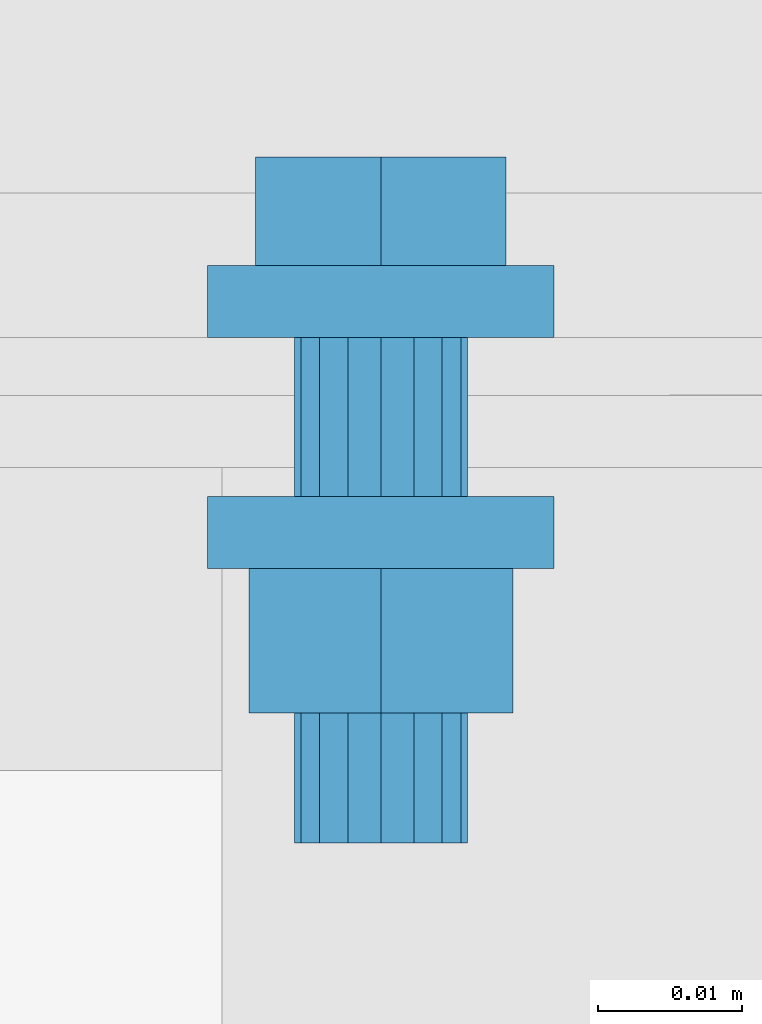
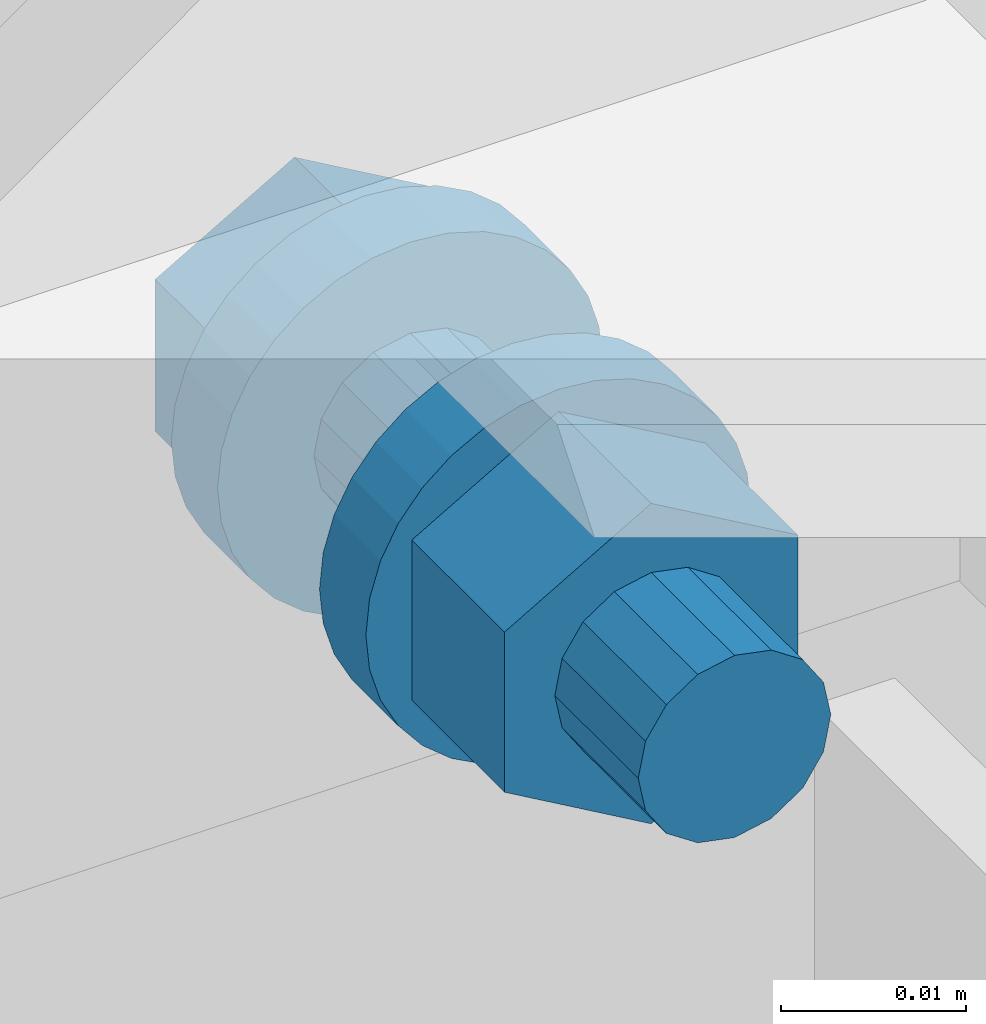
# One storey, part 79 of 116: 1 mechanical fastener.
"""IFC2X3 building model written with IfcOpenShell, lengths in millimetres."""

from ifc_helpers import new_model, entity, si_unit, converted_unit, origin_with_axes, place, context, project, spatial, faceted_brep, element, save


model = new_model("IFC2X3")

# Units and contexts
model_context = context("Model", 3, precision=1e-09, world=origin_with_axes())
ifc_project = project(units=[si_unit("LENGTHUNIT", "METRE", prefix="MILLI"), si_unit("AREAUNIT", "SQUARE_METRE"), si_unit("VOLUMEUNIT", "CUBIC_METRE"), converted_unit("PLANEANGLEUNIT", "DEGREE", entity("IfcPlaneAngleMeasure", 0.01745329), si_unit("PLANEANGLEUNIT", "RADIAN"), dimensions=[0, 0, 0, 0, 0, 0, 0])], contexts=[model_context])

# Site, building, storey
site_placement = place(None, origin_with_axes())
site = spatial("IfcSite", under=ifc_project, at=site_placement, Name="Site", CompositionType="ELEMENT")
building_placement = place(site_placement, origin_with_axes())
building = spatial("IfcBuilding", under=site, at=building_placement, Name="Struktur 1", CompositionType="ELEMENT")
storey_placement = place(building_placement, origin_with_axes())
storey = spatial("IfcBuildingStorey", under=building, at=storey_placement, Name="Default Storey", CompositionType="ELEMENT", Elevation=0.0)

# Mechanical fastener
mechanical_fastener_placement = place(None, origin_with_axes())
element("IfcMechanicalFastener", 1, at=mechanical_fastener_placement, inside=storey, ObjectType="-", NominalDiameter=12.0, NominalLength=40.0, context=model_context, shape_type="Brep", body=[
    faceted_brep([(60005.049134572, 10430.358883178, -998.0), (60005.049134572, 10432.858883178, -998.0), (60005.279711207, 10432.858883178, -1000.341083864), (60005.279711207, 10430.358883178, -1000.341083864), (60005.962580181, 10432.858883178, -1002.592201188), (60005.962580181, 10430.358883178, -1002.592201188), (60007.071499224, 10432.858883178, -1004.666842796), (60007.071499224, 10430.358883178, -1004.666842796), (60008.563853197, 10432.858883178, -1006.485281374), (60008.563853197, 10430.358883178, -1006.485281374), (60010.382291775, 10432.858883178, -1007.977635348), (60010.382291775, 10430.358883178, -1007.977635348), (60012.456933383, 10432.858883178, -1009.08655439), (60012.456933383, 10430.358883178, -1009.08655439), (60014.708050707, 10432.858883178, -1009.769423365), (60014.708050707, 10430.358883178, -1009.769423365), (60017.049134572, 10432.858883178, -1010.0), (60017.049134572, 10430.358883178, -1010.0), (60019.390218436, 10432.858883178, -1009.769423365), (60019.390218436, 10430.358883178, -1009.769423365), (60021.64133576, 10432.858883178, -1009.08655439), (60021.64133576, 10430.358883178, -1009.08655439), (60023.715977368, 10432.858883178, -1007.977635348), (60023.715977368, 10430.358883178, -1007.977635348), (60025.534415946, 10432.858883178, -1006.485281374), (60025.534415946, 10430.358883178, -1006.485281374), (60027.026769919, 10432.858883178, -1004.666842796), (60027.026769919, 10430.358883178, -1004.666842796), (60028.135688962, 10432.858883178, -1002.592201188), (60028.135688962, 10430.358883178, -1002.592201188), (60028.818557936, 10432.858883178, -1000.341083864), (60028.818557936, 10430.358883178, -1000.341083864), (60029.049134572, 10432.858883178, -998.0), (60029.049134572, 10430.358883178, -998.0), (60028.818557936, 10432.858883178, -995.658916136), (60028.818557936, 10430.358883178, -995.658916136), (60028.135688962, 10432.858883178, -993.407798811), (60028.135688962, 10430.358883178, -993.407798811), (60027.026769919, 10432.858883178, -991.333157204), (60027.026769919, 10430.358883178, -991.333157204), (60025.534415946, 10432.858883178, -989.514718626), (60025.534415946, 10430.358883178, -989.514718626), (60023.715977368, 10432.858883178, -988.022364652), (60023.715977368, 10430.358883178, -988.022364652), (60021.64133576, 10432.858883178, -986.91344561), (60021.64133576, 10430.358883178, -986.91344561), (60019.390218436, 10432.858883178, -986.230576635), (60019.390218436, 10430.358883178, -986.230576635), (60017.049134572, 10432.858883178, -986.0), (60017.049134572, 10430.358883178, -986.0), (60014.708050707, 10432.858883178, -986.230576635), (60014.708050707, 10430.358883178, -986.230576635), (60012.456933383, 10432.858883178, -986.91344561), (60012.456933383, 10430.358883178, -986.91344561), (60010.382291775, 10432.858883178, -988.022364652), (60010.382291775, 10430.358883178, -988.022364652), (60008.563853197, 10432.858883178, -989.514718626), (60008.563853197, 10430.358883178, -989.514718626), (60007.071499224, 10432.858883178, -991.333157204), (60007.071499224, 10430.358883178, -991.333157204), (60005.962580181, 10432.858883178, -993.407798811), (60005.962580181, 10430.358883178, -993.407798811), (60005.279711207, 10432.858883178, -995.658916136), (60005.279711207, 10430.358883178, -995.658916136)], [[[0, 1, 2, 3]], [[3, 2, 4, 5]], [[5, 4, 6, 7]], [[7, 6, 8, 9]], [[9, 8, 10, 11]], [[11, 10, 12, 13]], [[13, 12, 14, 15]], [[15, 14, 16, 17]], [[17, 16, 18, 19]], [[19, 18, 20, 21]], [[21, 20, 22, 23]], [[23, 22, 24, 25]], [[25, 24, 26, 27]], [[27, 26, 28, 29]], [[29, 28, 30, 31]], [[31, 30, 32, 33]], [[33, 32, 34, 35]], [[35, 34, 36, 37]], [[37, 36, 38, 39]], [[39, 38, 40, 41]], [[41, 40, 42, 43]], [[43, 42, 44, 45]], [[45, 44, 46, 47]], [[47, 46, 48, 49]], [[49, 48, 50, 51]], [[51, 50, 52, 53]], [[53, 52, 54, 55]], [[55, 54, 56, 57]], [[57, 56, 58, 59]], [[59, 58, 60, 61]], [[61, 60, 62, 63]], [[63, 62, 1, 0]], [[2, 1, 62, 60, 58, 56, 54, 52, 50, 48, 46, 44, 42, 40, 38, 36, 34, 32, 30, 28, 26, 24, 22, 20, 18, 16, 14, 12, 10, 8, 6, 4]], [[63, 0, 3, 5, 7, 9, 11, 13, 15, 17, 19, 21, 23, 25, 27, 29, 31, 33, 35, 37, 39, 41, 43, 45, 47, 49, 51, 53, 55, 57, 59, 61]]]),
    faceted_brep([(60005.049134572, 10432.858883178, -998.0), (60005.049134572, 10435.358883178, -998.0), (60005.279711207, 10435.358883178, -1000.341083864), (60005.279711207, 10432.858883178, -1000.341083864), (60005.962580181, 10435.358883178, -1002.592201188), (60005.962580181, 10432.858883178, -1002.592201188), (60007.071499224, 10435.358883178, -1004.666842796), (60007.071499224, 10432.858883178, -1004.666842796), (60008.563853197, 10435.358883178, -1006.485281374), (60008.563853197, 10432.858883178, -1006.485281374), (60010.382291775, 10435.358883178, -1007.977635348), (60010.382291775, 10432.858883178, -1007.977635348), (60012.456933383, 10435.358883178, -1009.08655439), (60012.456933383, 10432.858883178, -1009.08655439), (60014.708050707, 10435.358883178, -1009.769423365), (60014.708050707, 10432.858883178, -1009.769423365), (60017.049134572, 10435.358883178, -1010.0), (60017.049134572, 10432.858883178, -1010.0), (60019.390218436, 10435.358883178, -1009.769423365), (60019.390218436, 10432.858883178, -1009.769423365), (60021.64133576, 10435.358883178, -1009.08655439), (60021.64133576, 10432.858883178, -1009.08655439), (60023.715977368, 10435.358883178, -1007.977635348), (60023.715977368, 10432.858883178, -1007.977635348), (60025.534415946, 10435.358883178, -1006.485281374), (60025.534415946, 10432.858883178, -1006.485281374), (60027.026769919, 10435.358883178, -1004.666842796), (60027.026769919, 10432.858883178, -1004.666842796), (60028.135688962, 10435.358883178, -1002.592201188), (60028.135688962, 10432.858883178, -1002.592201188), (60028.818557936, 10435.358883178, -1000.341083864), (60028.818557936, 10432.858883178, -1000.341083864), (60029.049134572, 10435.358883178, -998.0), (60029.049134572, 10432.858883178, -998.0), (60028.818557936, 10435.358883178, -995.658916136), (60028.818557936, 10432.858883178, -995.658916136), (60028.135688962, 10435.358883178, -993.407798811), (60028.135688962, 10432.858883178, -993.407798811), (60027.026769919, 10435.358883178, -991.333157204), (60027.026769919, 10432.858883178, -991.333157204), (60025.534415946, 10435.358883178, -989.514718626), (60025.534415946, 10432.858883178, -989.514718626), (60023.715977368, 10435.358883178, -988.022364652), (60023.715977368, 10432.858883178, -988.022364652), (60021.64133576, 10435.358883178, -986.91344561), (60021.64133576, 10432.858883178, -986.91344561), (60019.390218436, 10435.358883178, -986.230576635), (60019.390218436, 10432.858883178, -986.230576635), (60017.049134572, 10435.358883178, -986.0), (60017.049134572, 10432.858883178, -986.0), (60014.708050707, 10435.358883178, -986.230576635), (60014.708050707, 10432.858883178, -986.230576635), (60012.456933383, 10435.358883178, -986.91344561), (60012.456933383, 10432.858883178, -986.91344561), (60010.382291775, 10435.358883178, -988.022364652), (60010.382291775, 10432.858883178, -988.022364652), (60008.563853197, 10435.358883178, -989.514718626), (60008.563853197, 10432.858883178, -989.514718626), (60007.071499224, 10435.358883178, -991.333157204), (60007.071499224, 10432.858883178, -991.333157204), (60005.962580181, 10435.358883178, -993.407798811), (60005.962580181, 10432.858883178, -993.407798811), (60005.279711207, 10435.358883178, -995.658916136), (60005.279711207, 10432.858883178, -995.658916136)], [[[0, 1, 2, 3]], [[3, 2, 4, 5]], [[5, 4, 6, 7]], [[7, 6, 8, 9]], [[9, 8, 10, 11]], [[11, 10, 12, 13]], [[13, 12, 14, 15]], [[15, 14, 16, 17]], [[17, 16, 18, 19]], [[19, 18, 20, 21]], [[21, 20, 22, 23]], [[23, 22, 24, 25]], [[25, 24, 26, 27]], [[27, 26, 28, 29]], [[29, 28, 30, 31]], [[31, 30, 32, 33]], [[33, 32, 34, 35]], [[35, 34, 36, 37]], [[37, 36, 38, 39]], [[39, 38, 40, 41]], [[41, 40, 42, 43]], [[43, 42, 44, 45]], [[45, 44, 46, 47]], [[47, 46, 48, 49]], [[49, 48, 50, 51]], [[51, 50, 52, 53]], [[53, 52, 54, 55]], [[55, 54, 56, 57]], [[57, 56, 58, 59]], [[59, 58, 60, 61]], [[61, 60, 62, 63]], [[63, 62, 1, 0]], [[2, 1, 62, 60, 58, 56, 54, 52, 50, 48, 46, 44, 42, 40, 38, 36, 34, 32, 30, 28, 26, 24, 22, 20, 18, 16, 14, 12, 10, 8, 6, 4]], [[63, 0, 3, 5, 7, 9, 11, 13, 15, 17, 19, 21, 23, 25, 27, 29, 31, 33, 35, 37, 39, 41, 43, 45, 47, 49, 51, 53, 55, 57, 59, 61]]]),
    faceted_brep([(60025.722378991, 10442.858883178, -1003.0075), (60025.722378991, 10435.358883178, -1003.0075), (60017.049134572, 10435.358883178, -1008.015), (60017.049134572, 10442.858883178, -1008.015), (60008.375890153, 10435.358883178, -1003.0075), (60008.375890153, 10442.858883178, -1003.0075), (60008.375890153, 10435.358883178, -992.9925), (60008.375890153, 10442.858883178, -992.9925), (60017.049134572, 10435.358883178, -987.985), (60017.049134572, 10442.858883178, -987.985), (60025.722378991, 10435.358883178, -992.9925), (60025.722378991, 10442.858883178, -992.9925)], [[[0, 1, 2, 3]], [[3, 2, 4, 5]], [[5, 4, 6, 7]], [[7, 6, 8, 9]], [[9, 8, 10, 11]], [[11, 10, 1, 0]], [[3, 5, 7, 9, 11, 0]], [[2, 1, 10, 8, 6, 4]]]),
    faceted_brep([(60011.049134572, 10419.358883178, -998.0), (60011.049134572, 10430.358883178, -998.0), (60011.505857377, 10430.358883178, -1000.296100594), (60011.505857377, 10419.358883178, -1000.296100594), (60012.806493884, 10430.358883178, -1002.242640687), (60012.806493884, 10419.358883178, -1002.242640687), (60014.753033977, 10430.358883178, -1003.543277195), (60014.753033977, 10419.358883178, -1003.543277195), (60017.049134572, 10430.358883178, -1004.0), (60017.049134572, 10419.358883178, -1004.0), (60019.345235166, 10430.358883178, -1003.543277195), (60019.345235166, 10419.358883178, -1003.543277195), (60021.291775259, 10430.358883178, -1002.242640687), (60021.291775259, 10419.358883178, -1002.242640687), (60022.592411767, 10430.358883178, -1000.296100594), (60022.592411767, 10419.358883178, -1000.296100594), (60023.049134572, 10430.358883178, -998.0), (60023.049134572, 10419.358883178, -998.0), (60022.592411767, 10430.358883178, -995.703899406), (60022.592411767, 10419.358883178, -995.703899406), (60021.291775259, 10430.358883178, -993.757359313), (60021.291775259, 10419.358883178, -993.757359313), (60019.345235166, 10430.358883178, -992.456722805), (60019.345235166, 10419.358883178, -992.456722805), (60017.049134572, 10430.358883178, -992.0), (60017.049134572, 10419.358883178, -992.0), (60014.753033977, 10430.358883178, -992.456722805), (60014.753033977, 10419.358883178, -992.456722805), (60012.806493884, 10430.358883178, -993.757359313), (60012.806493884, 10419.358883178, -993.757359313), (60011.505857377, 10430.358883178, -995.703899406), (60011.505857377, 10419.358883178, -995.703899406)], [[[0, 1, 2, 3]], [[3, 2, 4, 5]], [[5, 4, 6, 7]], [[7, 6, 8, 9]], [[9, 8, 10, 11]], [[11, 10, 12, 13]], [[13, 12, 14, 15]], [[15, 14, 16, 17]], [[17, 16, 18, 19]], [[19, 18, 20, 21]], [[21, 20, 22, 23]], [[23, 22, 24, 25]], [[25, 24, 26, 27]], [[27, 26, 28, 29]], [[29, 28, 30, 31]], [[31, 30, 1, 0]], [[2, 1, 30, 28, 26, 24, 22, 20, 18, 16, 14, 12, 10, 8, 6, 4]], [[31, 0, 3, 5, 7, 9, 11, 13, 15, 17, 19, 21, 23, 25, 27, 29]]]),
    faceted_brep([(60005.049134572, 10416.858883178, -998.0), (60005.049134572, 10419.358883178, -998.0), (60005.279711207, 10419.358883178, -1000.341083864), (60005.279711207, 10416.858883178, -1000.341083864), (60005.962580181, 10419.358883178, -1002.592201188), (60005.962580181, 10416.858883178, -1002.592201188), (60007.071499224, 10419.358883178, -1004.666842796), (60007.071499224, 10416.858883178, -1004.666842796), (60008.563853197, 10419.358883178, -1006.485281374), (60008.563853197, 10416.858883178, -1006.485281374), (60010.382291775, 10419.358883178, -1007.977635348), (60010.382291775, 10416.858883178, -1007.977635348), (60012.456933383, 10419.358883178, -1009.08655439), (60012.456933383, 10416.858883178, -1009.08655439), (60014.708050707, 10419.358883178, -1009.769423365), (60014.708050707, 10416.858883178, -1009.769423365), (60017.049134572, 10419.358883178, -1010.0), (60017.049134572, 10416.858883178, -1010.0), (60019.390218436, 10419.358883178, -1009.769423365), (60019.390218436, 10416.858883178, -1009.769423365), (60021.64133576, 10419.358883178, -1009.08655439), (60021.64133576, 10416.858883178, -1009.08655439), (60023.715977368, 10419.358883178, -1007.977635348), (60023.715977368, 10416.858883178, -1007.977635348), (60025.534415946, 10419.358883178, -1006.485281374), (60025.534415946, 10416.858883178, -1006.485281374), (60027.026769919, 10419.358883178, -1004.666842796), (60027.026769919, 10416.858883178, -1004.666842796), (60028.135688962, 10419.358883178, -1002.592201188), (60028.135688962, 10416.858883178, -1002.592201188), (60028.818557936, 10419.358883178, -1000.341083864), (60028.818557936, 10416.858883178, -1000.341083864), (60029.049134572, 10419.358883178, -998.0), (60029.049134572, 10416.858883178, -998.0), (60028.818557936, 10419.358883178, -995.658916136), (60028.818557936, 10416.858883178, -995.658916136), (60028.135688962, 10419.358883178, -993.407798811), (60028.135688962, 10416.858883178, -993.407798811), (60027.026769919, 10419.358883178, -991.333157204), (60027.026769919, 10416.858883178, -991.333157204), (60025.534415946, 10419.358883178, -989.514718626), (60025.534415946, 10416.858883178, -989.514718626), (60023.715977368, 10419.358883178, -988.022364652), (60023.715977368, 10416.858883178, -988.022364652), (60021.64133576, 10419.358883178, -986.91344561), (60021.64133576, 10416.858883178, -986.91344561), (60019.390218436, 10419.358883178, -986.230576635), (60019.390218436, 10416.858883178, -986.230576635), (60017.049134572, 10419.358883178, -986.0), (60017.049134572, 10416.858883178, -986.0), (60014.708050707, 10419.358883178, -986.230576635), (60014.708050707, 10416.858883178, -986.230576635), (60012.456933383, 10419.358883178, -986.91344561), (60012.456933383, 10416.858883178, -986.91344561), (60010.382291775, 10419.358883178, -988.022364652), (60010.382291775, 10416.858883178, -988.022364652), (60008.563853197, 10419.358883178, -989.514718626), (60008.563853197, 10416.858883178, -989.514718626), (60007.071499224, 10419.358883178, -991.333157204), (60007.071499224, 10416.858883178, -991.333157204), (60005.962580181, 10419.358883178, -993.407798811), (60005.962580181, 10416.858883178, -993.407798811), (60005.279711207, 10419.358883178, -995.658916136), (60005.279711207, 10416.858883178, -995.658916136)], [[[0, 1, 2, 3]], [[3, 2, 4, 5]], [[5, 4, 6, 7]], [[7, 6, 8, 9]], [[9, 8, 10, 11]], [[11, 10, 12, 13]], [[13, 12, 14, 15]], [[15, 14, 16, 17]], [[17, 16, 18, 19]], [[19, 18, 20, 21]], [[21, 20, 22, 23]], [[23, 22, 24, 25]], [[25, 24, 26, 27]], [[27, 26, 28, 29]], [[29, 28, 30, 31]], [[31, 30, 32, 33]], [[33, 32, 34, 35]], [[35, 34, 36, 37]], [[37, 36, 38, 39]], [[39, 38, 40, 41]], [[41, 40, 42, 43]], [[43, 42, 44, 45]], [[45, 44, 46, 47]], [[47, 46, 48, 49]], [[49, 48, 50, 51]], [[51, 50, 52, 53]], [[53, 52, 54, 55]], [[55, 54, 56, 57]], [[57, 56, 58, 59]], [[59, 58, 60, 61]], [[61, 60, 62, 63]], [[63, 62, 1, 0]], [[2, 1, 62, 60, 58, 56, 54, 52, 50, 48, 46, 44, 42, 40, 38, 36, 34, 32, 30, 28, 26, 24, 22, 20, 18, 16, 14, 12, 10, 8, 6, 4]], [[63, 0, 3, 5, 7, 9, 11, 13, 15, 17, 19, 21, 23, 25, 27, 29, 31, 33, 35, 37, 39, 41, 43, 45, 47, 49, 51, 53, 55, 57, 59, 61]]]),
    faceted_brep([(60005.049134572, 10414.358883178, -998.0), (60005.049134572, 10416.858883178, -998.0), (60005.279711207, 10416.858883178, -1000.341083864), (60005.279711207, 10414.358883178, -1000.341083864), (60005.962580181, 10416.858883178, -1002.592201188), (60005.962580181, 10414.358883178, -1002.592201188), (60007.071499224, 10416.858883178, -1004.666842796), (60007.071499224, 10414.358883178, -1004.666842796), (60008.563853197, 10416.858883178, -1006.485281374), (60008.563853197, 10414.358883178, -1006.485281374), (60010.382291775, 10416.858883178, -1007.977635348), (60010.382291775, 10414.358883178, -1007.977635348), (60012.456933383, 10416.858883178, -1009.08655439), (60012.456933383, 10414.358883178, -1009.08655439), (60014.708050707, 10416.858883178, -1009.769423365), (60014.708050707, 10414.358883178, -1009.769423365), (60017.049134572, 10416.858883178, -1010.0), (60017.049134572, 10414.358883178, -1010.0), (60019.390218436, 10416.858883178, -1009.769423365), (60019.390218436, 10414.358883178, -1009.769423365), (60021.64133576, 10416.858883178, -1009.08655439), (60021.64133576, 10414.358883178, -1009.08655439), (60023.715977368, 10416.858883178, -1007.977635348), (60023.715977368, 10414.358883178, -1007.977635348), (60025.534415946, 10416.858883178, -1006.485281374), (60025.534415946, 10414.358883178, -1006.485281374), (60027.026769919, 10416.858883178, -1004.666842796), (60027.026769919, 10414.358883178, -1004.666842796), (60028.135688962, 10416.858883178, -1002.592201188), (60028.135688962, 10414.358883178, -1002.592201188), (60028.818557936, 10416.858883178, -1000.341083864), (60028.818557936, 10414.358883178, -1000.341083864), (60029.049134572, 10416.858883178, -998.0), (60029.049134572, 10414.358883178, -998.0), (60028.818557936, 10416.858883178, -995.658916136), (60028.818557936, 10414.358883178, -995.658916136), (60028.135688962, 10416.858883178, -993.407798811), (60028.135688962, 10414.358883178, -993.407798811), (60027.026769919, 10416.858883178, -991.333157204), (60027.026769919, 10414.358883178, -991.333157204), (60025.534415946, 10416.858883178, -989.514718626), (60025.534415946, 10414.358883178, -989.514718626), (60023.715977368, 10416.858883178, -988.022364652), (60023.715977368, 10414.358883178, -988.022364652), (60021.64133576, 10416.858883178, -986.91344561), (60021.64133576, 10414.358883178, -986.91344561), (60019.390218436, 10416.858883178, -986.230576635), (60019.390218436, 10414.358883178, -986.230576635), (60017.049134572, 10416.858883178, -986.0), (60017.049134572, 10414.358883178, -986.0), (60014.708050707, 10416.858883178, -986.230576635), (60014.708050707, 10414.358883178, -986.230576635), (60012.456933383, 10416.858883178, -986.91344561), (60012.456933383, 10414.358883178, -986.91344561), (60010.382291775, 10416.858883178, -988.022364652), (60010.382291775, 10414.358883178, -988.022364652), (60008.563853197, 10416.858883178, -989.514718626), (60008.563853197, 10414.358883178, -989.514718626), (60007.071499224, 10416.858883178, -991.333157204), (60007.071499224, 10414.358883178, -991.333157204), (60005.962580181, 10416.858883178, -993.407798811), (60005.962580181, 10414.358883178, -993.407798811), (60005.279711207, 10416.858883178, -995.658916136), (60005.279711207, 10414.358883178, -995.658916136)], [[[0, 1, 2, 3]], [[3, 2, 4, 5]], [[5, 4, 6, 7]], [[7, 6, 8, 9]], [[9, 8, 10, 11]], [[11, 10, 12, 13]], [[13, 12, 14, 15]], [[15, 14, 16, 17]], [[17, 16, 18, 19]], [[19, 18, 20, 21]], [[21, 20, 22, 23]], [[23, 22, 24, 25]], [[25, 24, 26, 27]], [[27, 26, 28, 29]], [[29, 28, 30, 31]], [[31, 30, 32, 33]], [[33, 32, 34, 35]], [[35, 34, 36, 37]], [[37, 36, 38, 39]], [[39, 38, 40, 41]], [[41, 40, 42, 43]], [[43, 42, 44, 45]], [[45, 44, 46, 47]], [[47, 46, 48, 49]], [[49, 48, 50, 51]], [[51, 50, 52, 53]], [[53, 52, 54, 55]], [[55, 54, 56, 57]], [[57, 56, 58, 59]], [[59, 58, 60, 61]], [[61, 60, 62, 63]], [[63, 62, 1, 0]], [[2, 1, 62, 60, 58, 56, 54, 52, 50, 48, 46, 44, 42, 40, 38, 36, 34, 32, 30, 28, 26, 24, 22, 20, 18, 16, 14, 12, 10, 8, 6, 4]], [[63, 0, 3, 5, 7, 9, 11, 13, 15, 17, 19, 21, 23, 25, 27, 29, 31, 33, 35, 37, 39, 41, 43, 45, 47, 49, 51, 53, 55, 57, 59, 61]]]),
    faceted_brep([(60026.185702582, 10414.358883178, -1003.275), (60026.185702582, 10404.358883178, -1003.275), (60017.049134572, 10404.358883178, -1008.55), (60017.049134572, 10414.358883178, -1008.55), (60007.912566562, 10404.358883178, -1003.275), (60007.912566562, 10414.358883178, -1003.275), (60007.912566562, 10404.358883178, -992.725), (60007.912566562, 10414.358883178, -992.725), (60017.049134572, 10404.358883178, -987.45), (60017.049134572, 10414.358883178, -987.45), (60026.185702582, 10404.358883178, -992.725), (60026.185702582, 10414.358883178, -992.725)], [[[0, 1, 2, 3]], [[3, 2, 4, 5]], [[5, 4, 6, 7]], [[7, 6, 8, 9]], [[9, 8, 10, 11]], [[11, 10, 1, 0]], [[3, 5, 7, 9, 11, 0]], [[2, 1, 10, 8, 6, 4]]]),
    faceted_brep([(60011.049134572, 10395.358883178, -998.0), (60011.049134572, 10404.358883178, -998.0), (60011.505857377, 10404.358883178, -1000.296100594), (60011.505857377, 10395.358883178, -1000.296100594), (60012.806493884, 10404.358883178, -1002.242640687), (60012.806493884, 10395.358883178, -1002.242640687), (60014.753033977, 10404.358883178, -1003.543277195), (60014.753033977, 10395.358883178, -1003.543277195), (60017.049134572, 10404.358883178, -1004.0), (60017.049134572, 10395.358883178, -1004.0), (60019.345235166, 10404.358883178, -1003.543277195), (60019.345235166, 10395.358883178, -1003.543277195), (60021.291775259, 10404.358883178, -1002.242640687), (60021.291775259, 10395.358883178, -1002.242640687), (60022.592411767, 10404.358883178, -1000.296100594), (60022.592411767, 10395.358883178, -1000.296100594), (60023.049134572, 10404.358883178, -998.0), (60023.049134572, 10395.358883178, -998.0), (60022.592411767, 10404.358883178, -995.703899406), (60022.592411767, 10395.358883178, -995.703899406), (60021.291775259, 10404.358883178, -993.757359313), (60021.291775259, 10395.358883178, -993.757359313), (60019.345235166, 10404.358883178, -992.456722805), (60019.345235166, 10395.358883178, -992.456722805), (60017.049134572, 10404.358883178, -992.0), (60017.049134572, 10395.358883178, -992.0), (60014.753033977, 10404.358883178, -992.456722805), (60014.753033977, 10395.358883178, -992.456722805), (60012.806493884, 10404.358883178, -993.757359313), (60012.806493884, 10395.358883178, -993.757359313), (60011.505857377, 10404.358883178, -995.703899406), (60011.505857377, 10395.358883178, -995.703899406)], [[[0, 1, 2, 3]], [[3, 2, 4, 5]], [[5, 4, 6, 7]], [[7, 6, 8, 9]], [[9, 8, 10, 11]], [[11, 10, 12, 13]], [[13, 12, 14, 15]], [[15, 14, 16, 17]], [[17, 16, 18, 19]], [[19, 18, 20, 21]], [[21, 20, 22, 23]], [[23, 22, 24, 25]], [[25, 24, 26, 27]], [[27, 26, 28, 29]], [[29, 28, 30, 31]], [[31, 30, 1, 0]], [[2, 1, 30, 28, 26, 24, 22, 20, 18, 16, 14, 12, 10, 8, 6, 4]], [[31, 0, 3, 5, 7, 9, 11, 13, 15, 17, 19, 21, 23, 25, 27, 29]]]),
])

save(model, "model.ifc")
